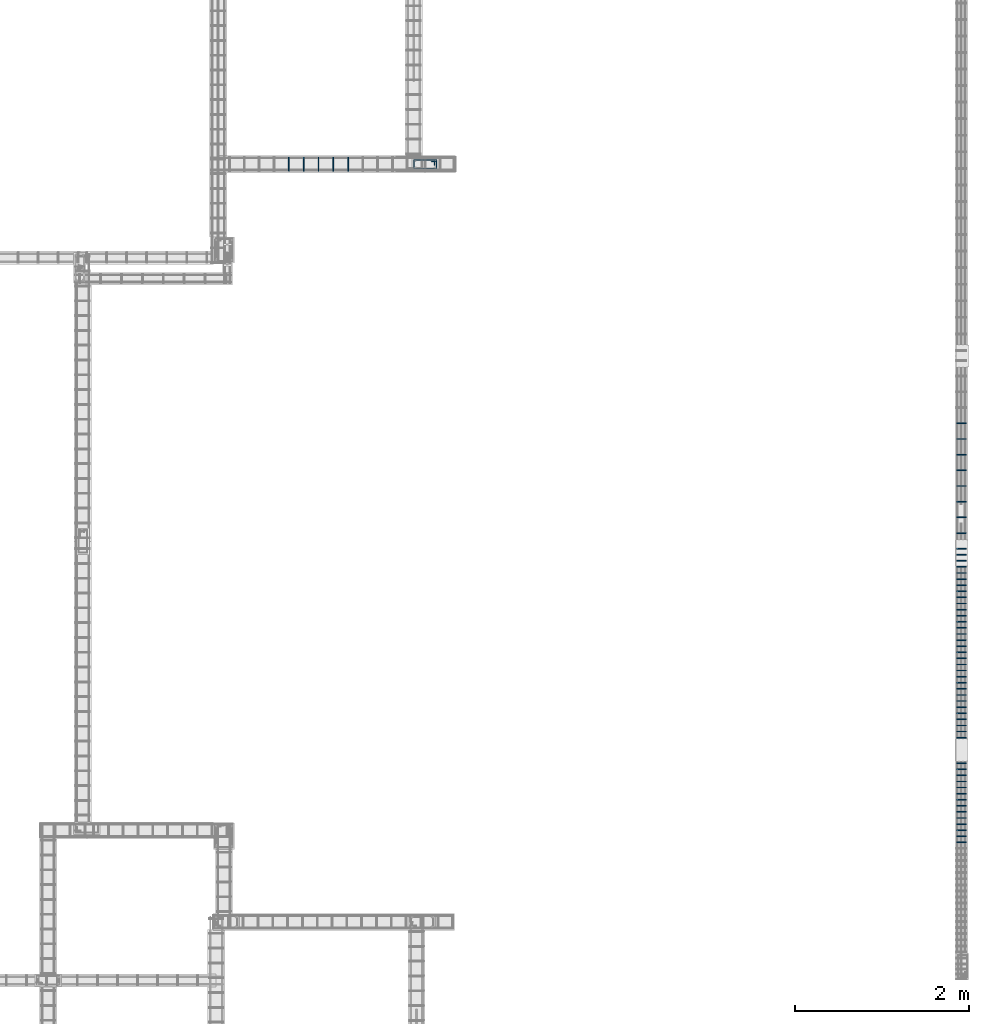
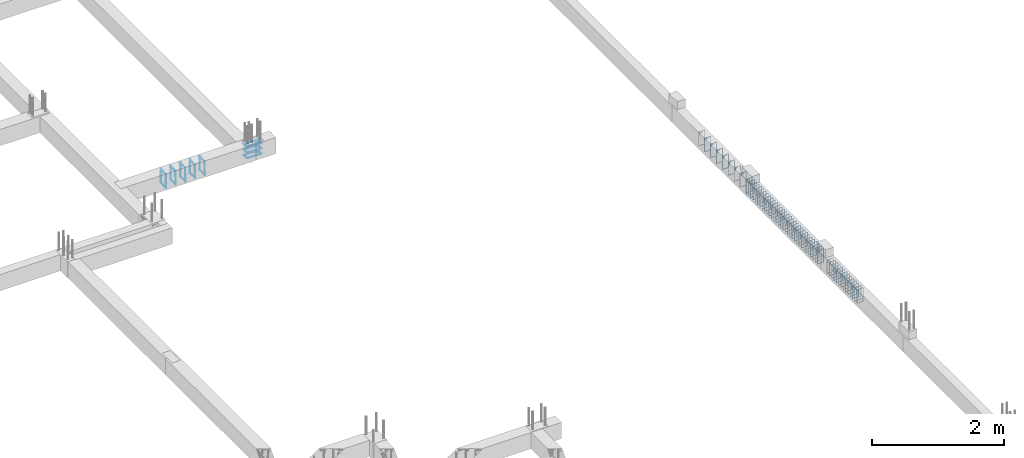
# One storey, part 104 of 150: 62 reinforcing bars.
"""IFC4 building model written with IfcOpenShell, lengths in centimetres."""

from ifc_helpers import new_model, entity, si_unit, derived_unit, frame, origin_with_axes, place, context, project, spatial, source, transform, mapped, element, save


model = new_model("IFC4")

# Units and contexts
model_context = context("Model", 3, precision=1e-05, world=origin_with_axes(), identifier="Body")
ifc_project = project(units=[si_unit("LENGTHUNIT", "METRE", prefix="CENTI"), si_unit("VOLUMEUNIT", "CUBIC_METRE"), si_unit("AREAUNIT", "SQUARE_METRE"), si_unit("POWERUNIT", "WATT"), si_unit("LUMINOUSFLUXUNIT", "LUMEN"), si_unit("ELECTRICCURRENTUNIT", "AMPERE"), si_unit("PRESSUREUNIT", "PASCAL", prefix="KILO"), si_unit("MASSUNIT", "GRAM", prefix="KILO"), si_unit("PLANEANGLEUNIT", "RADIAN"), derived_unit("VOLUMETRICFLOWRATEUNIT", [(si_unit("LENGTHUNIT", "METRE"), 3), (si_unit("TIMEUNIT", "SECOND"), -1)])], contexts=[model_context])

# Site, building, storey
site_placement = place(None, frame((-4000.0, 0.0, 0.0), z_axis=(0.0, 0.0, 1.0), x_axis=(1.0, 0.0, 0.0)))
site = spatial("IfcSite", under=ifc_project, at=site_placement, Name="PADRÃO")
building_placement = place(site_placement, frame((0.0, 0.0, -14.0)))
building = spatial("IfcBuilding", under=site, at=building_placement, Name="CRECHE PRÉ-ESCOLA TIPO 2")
placement = place(building_placement, origin_with_axes())
storey_placement = place(placement, frame((0.0, 0.0, 30.0), z_axis=(0.0, 0.0, 1.0), x_axis=(1.0, 0.0, 0.0)))
storey = spatial("IfcBuildingStorey", under=building, at=storey_placement, Name="VIGA BALDRAME", CompositionType="ELEMENT", Elevation=16.0)

# Reinforcing bars
shared_shape_1 = source(origin_with_axes(), model_context, "Body", "AdvancedSweptSolid", [
    entity("IfcSweptDiskSolid", entity("IfcCompositeCurve", [entity("IfcCompositeCurveSegment", "CONTINUOUS", True, entity("IfcPolyline", [entity("IfcCartesianPoint", [4.25, 21.75, 0.0]), entity("IfcCartesianPoint", [4.25, 27.75, 0.0])])), entity("IfcCompositeCurveSegment", "CONTINUOUS", True, entity("IfcPolyline", [entity("IfcCartesianPoint", [4.25, 27.75, 0.0]), entity("IfcCartesianPoint", [2.25, 27.75, 0.0])])), entity("IfcCompositeCurveSegment", "CONTINUOUS", True, entity("IfcPolyline", [entity("IfcCartesianPoint", [2.25, 27.75, 0.0]), entity("IfcCartesianPoint", [2.25, 2.25, 0.0])])), entity("IfcCompositeCurveSegment", "CONTINUOUS", True, entity("IfcPolyline", [entity("IfcCartesianPoint", [2.25, 2.25, 0.0]), entity("IfcCartesianPoint", [11.75, 2.25, 0.0])])), entity("IfcCompositeCurveSegment", "CONTINUOUS", True, entity("IfcPolyline", [entity("IfcCartesianPoint", [11.75, 2.25, 0.0]), entity("IfcCartesianPoint", [11.75, 27.75, -0.5])])), entity("IfcCompositeCurveSegment", "CONTINUOUS", True, entity("IfcPolyline", [entity("IfcCartesianPoint", [11.75, 27.75, -0.5]), entity("IfcCartesianPoint", [2.25, 27.75, -0.5])])), entity("IfcCompositeCurveSegment", "CONTINUOUS", True, entity("IfcPolyline", [entity("IfcCartesianPoint", [2.25, 27.75, -0.5]), entity("IfcCartesianPoint", [2.25, 25.75, -0.5])])), entity("IfcCompositeCurveSegment", "CONTINUOUS", True, entity("IfcPolyline", [entity("IfcCartesianPoint", [2.25, 25.75, -0.5]), entity("IfcCartesianPoint", [8.25, 25.75, -0.5])]))], False), 0.25),
])
for number, where, z_axis, x_axis, name in (
    (1, (3361.0, 2692.02, -25.0), (0.0, 0.0, 1.0), (0.0, -1.0, 0.0), "P69 - Estribo"),
    (2, (3361.0, 2692.02, -15.0), (0.0, 0.0, 1.0), (0.0, -1.0, 0.0), "P69 - Estribo"),
    (3, (3361.0, 2692.02, -5.0), (0.0, 0.0, 1.0), (0.0, -1.0, 0.0), "P69 - Estribo"),
):
    element("IfcReinforcingBar", number, at=place(storey_placement, frame(where, z_axis=z_axis, x_axis=x_axis)), inside=storey, Name=name, BarLength=0.0, CrossSectionArea=1.9634954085e-05, NominalDiameter=0.5, PredefinedType="MAIN", context=model_context, shape_type="MappedRepresentation", body=[
        mapped(shared_shape_1, transform((0.0, 0.0, 0.0), scale=1.0)),
    ])
shared_shape_2 = source(origin_with_axes(), model_context, "Body", "AdvancedSweptSolid", [
    entity("IfcSweptDiskSolid", entity("IfcCompositeCurve", [entity("IfcCompositeCurveSegment", "CONTINUOUS", True, entity("IfcPolyline", [entity("IfcCartesianPoint", [2.0, -6.0, 0.0]), entity("IfcCartesianPoint", [2.0, 0.0, 0.0])])), entity("IfcCompositeCurveSegment", "CONTINUOUS", True, entity("IfcPolyline", [entity("IfcCartesianPoint", [2.0, 0.0, 0.0]), entity("IfcCartesianPoint", [0.0, 0.0, 0.0])])), entity("IfcCompositeCurveSegment", "CONTINUOUS", True, entity("IfcPolyline", [entity("IfcCartesianPoint", [0.0, 0.0, 0.0]), entity("IfcCartesianPoint", [0.0, -25.5, 0.0])])), entity("IfcCompositeCurveSegment", "CONTINUOUS", True, entity("IfcPolyline", [entity("IfcCartesianPoint", [0.0, -25.5, 0.0]), entity("IfcCartesianPoint", [15.5, -25.5, 0.0])])), entity("IfcCompositeCurveSegment", "CONTINUOUS", True, entity("IfcPolyline", [entity("IfcCartesianPoint", [15.5, -25.5, 0.0]), entity("IfcCartesianPoint", [15.5, 0.0, 0.5])])), entity("IfcCompositeCurveSegment", "CONTINUOUS", True, entity("IfcPolyline", [entity("IfcCartesianPoint", [15.5, 0.0, 0.5]), entity("IfcCartesianPoint", [0.0, 0.0, 0.5])])), entity("IfcCompositeCurveSegment", "CONTINUOUS", True, entity("IfcPolyline", [entity("IfcCartesianPoint", [0.0, 0.0, 0.5]), entity("IfcCartesianPoint", [0.0, -2.0, 0.5])])), entity("IfcCompositeCurveSegment", "CONTINUOUS", True, entity("IfcPolyline", [entity("IfcCartesianPoint", [0.0, -2.0, 0.5]), entity("IfcCartesianPoint", [6.0, -2.0, 0.5])]))], False), 0.25),
])
for number, where, z_axis, x_axis, name in (
    (4, (3253.75, 2692.77, -2.25), (-1.0, 0.0, 0.0), (0.0, -1.0, 0.0), "V118 - Estribo"),
    (5, (3219.75, 2692.77, -2.25), (-1.0, 0.0, 0.0), (0.0, -1.0, 0.0), "V118 - Estribo"),
    (6, (3236.75, 2692.77, -2.25), (-1.0, 0.0, 0.0), (0.0, -1.0, 0.0), "V118 - Estribo"),
    (7, (3270.75, 2692.77, -2.25), (-1.0, 0.0, 0.0), (0.0, -1.0, 0.0), "V118 - Estribo"),
    (8, (3287.75, 2692.77, -2.25), (-1.0, 0.0, 0.0), (0.0, -1.0, 0.0), "V118 - Estribo"),
):
    element("IfcReinforcingBar", number, at=place(storey_placement, frame(where, z_axis=z_axis, x_axis=x_axis)), inside=storey, Name=name, BarLength=0.0, CrossSectionArea=1.9634954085e-05, NominalDiameter=0.5, PredefinedType="MAIN", context=model_context, shape_type="MappedRepresentation", body=[
        mapped(shared_shape_2, transform((0.0, 0.0, 0.0), scale=1.0)),
    ])
shared_shape_3 = source(origin_with_axes(), model_context, "Body", "AdvancedSweptSolid", [
    entity("IfcSweptDiskSolid", entity("IfcCompositeCurve", [entity("IfcCompositeCurveSegment", "CONTINUOUS", True, entity("IfcPolyline", [entity("IfcCartesianPoint", [2.0, -6.0, 0.0]), entity("IfcCartesianPoint", [2.0, 0.0, 0.0])])), entity("IfcCompositeCurveSegment", "CONTINUOUS", True, entity("IfcPolyline", [entity("IfcCartesianPoint", [2.0, 0.0, 0.0]), entity("IfcCartesianPoint", [0.0, 0.0, 0.0])])), entity("IfcCompositeCurveSegment", "CONTINUOUS", True, entity("IfcPolyline", [entity("IfcCartesianPoint", [0.0, 0.0, 0.0]), entity("IfcCartesianPoint", [0.0, -25.5, 0.0])])), entity("IfcCompositeCurveSegment", "CONTINUOUS", True, entity("IfcPolyline", [entity("IfcCartesianPoint", [0.0, -25.5, 0.0]), entity("IfcCartesianPoint", [10.5, -25.5, 0.0])])), entity("IfcCompositeCurveSegment", "CONTINUOUS", True, entity("IfcPolyline", [entity("IfcCartesianPoint", [10.5, -25.5, 0.0]), entity("IfcCartesianPoint", [10.5, 0.0, 0.5])])), entity("IfcCompositeCurveSegment", "CONTINUOUS", True, entity("IfcPolyline", [entity("IfcCartesianPoint", [10.5, 0.0, 0.5]), entity("IfcCartesianPoint", [0.0, 0.0, 0.5])])), entity("IfcCompositeCurveSegment", "CONTINUOUS", True, entity("IfcPolyline", [entity("IfcCartesianPoint", [0.0, 0.0, 0.5]), entity("IfcCartesianPoint", [0.0, -2.0, 0.5])])), entity("IfcCompositeCurveSegment", "CONTINUOUS", True, entity("IfcPolyline", [entity("IfcCartesianPoint", [0.0, -2.0, 0.5]), entity("IfcCartesianPoint", [6.0, -2.0, 0.5])]))], False), 0.25),
])
for number, where, z_axis, x_axis, name in (
    (9, (3986.25, 1997.61, -17.25), (0.0, -1.0, 0.0), (1.0, 0.0, 0.0), "V230 - Estribo"),
    (10, (3986.25, 1990.61, -17.25), (0.0, -1.0, 0.0), (1.0, 0.0, 0.0), "V230 - Estribo"),
    (11, (3986.25, 1983.61, -17.25), (0.0, -1.0, 0.0), (1.0, 0.0, 0.0), "V230 - Estribo"),
    (12, (3986.25, 1976.61, -17.25), (0.0, -1.0, 0.0), (1.0, 0.0, 0.0), "V230 - Estribo"),
    (13, (3986.25, 1969.61, -17.25), (0.0, -1.0, 0.0), (1.0, 0.0, 0.0), "V230 - Estribo"),
    (14, (3986.25, 1962.61, -17.25), (0.0, -1.0, 0.0), (1.0, 0.0, 0.0), "V230 - Estribo"),
    (15, (3986.25, 1955.61, -17.25), (0.0, -1.0, 0.0), (1.0, 0.0, 0.0), "V230 - Estribo"),
    (16, (3986.25, 1948.61, -17.25), (0.0, -1.0, 0.0), (1.0, 0.0, 0.0), "V230 - Estribo"),
    (17, (3986.25, 1941.61, -17.25), (0.0, -1.0, 0.0), (1.0, 0.0, 0.0), "V230 - Estribo"),
    (18, (3986.25, 1934.61, -17.25), (0.0, -1.0, 0.0), (1.0, 0.0, 0.0), "V230 - Estribo"),
    (19, (3986.25, 1927.61, -17.25), (0.0, -1.0, 0.0), (1.0, 0.0, 0.0), "V230 - Estribo"),
    (20, (3986.25, 1920.61, -17.25), (0.0, -1.0, 0.0), (1.0, 0.0, 0.0), "V230 - Estribo"),
    (21, (3986.25, 1913.61, -17.25), (0.0, -1.0, 0.0), (1.0, 0.0, 0.0), "V230 - Estribo"),
    (22, (3986.25, 1906.61, -17.25), (0.0, -1.0, 0.0), (1.0, 0.0, 0.0), "V230 - Estribo"),
):
    element("IfcReinforcingBar", number, at=place(storey_placement, frame(where, z_axis=z_axis, x_axis=x_axis)), inside=storey, Name=name, BarLength=0.0, CrossSectionArea=1.9634954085e-05, NominalDiameter=0.5, PredefinedType="MAIN", context=model_context, shape_type="MappedRepresentation", body=[
        mapped(shared_shape_3, transform((0.0, 0.0, 0.0), scale=1.0)),
    ])
shared_shape_4 = source(origin_with_axes(), model_context, "Body", "AdvancedSweptSolid", [
    entity("IfcSweptDiskSolid", entity("IfcCompositeCurve", [entity("IfcCompositeCurveSegment", "CONTINUOUS", True, entity("IfcPolyline", [entity("IfcCartesianPoint", [2.0, -6.0, 0.0]), entity("IfcCartesianPoint", [2.0, 0.0, 0.0])])), entity("IfcCompositeCurveSegment", "CONTINUOUS", True, entity("IfcPolyline", [entity("IfcCartesianPoint", [2.0, 0.0, 0.0]), entity("IfcCartesianPoint", [0.0, 0.0, 0.0])])), entity("IfcCompositeCurveSegment", "CONTINUOUS", True, entity("IfcPolyline", [entity("IfcCartesianPoint", [0.0, 0.0, 0.0]), entity("IfcCartesianPoint", [0.0, -25.5, 0.0])])), entity("IfcCompositeCurveSegment", "CONTINUOUS", True, entity("IfcPolyline", [entity("IfcCartesianPoint", [0.0, -25.5, 0.0]), entity("IfcCartesianPoint", [10.5, -25.5, 0.0])])), entity("IfcCompositeCurveSegment", "CONTINUOUS", True, entity("IfcPolyline", [entity("IfcCartesianPoint", [10.5, -25.5, 0.0]), entity("IfcCartesianPoint", [10.5, 0.0, 0.5])])), entity("IfcCompositeCurveSegment", "CONTINUOUS", True, entity("IfcPolyline", [entity("IfcCartesianPoint", [10.5, 0.0, 0.5]), entity("IfcCartesianPoint", [0.0, 0.0, 0.5])])), entity("IfcCompositeCurveSegment", "CONTINUOUS", True, entity("IfcPolyline", [entity("IfcCartesianPoint", [0.0, 0.0, 0.5]), entity("IfcCartesianPoint", [0.0, -2.0, 0.5])])), entity("IfcCompositeCurveSegment", "CONTINUOUS", True, entity("IfcPolyline", [entity("IfcCartesianPoint", [0.0, -2.0, 0.5]), entity("IfcCartesianPoint", [6.0, -2.0, 0.5])]))], False), 0.25),
])
for number, where, z_axis, x_axis, name in (
    (23, (3986.25, 2236.9, -17.25), (0.0, -1.0, 0.0), (1.0, 0.0, 0.0), "V230 - Estribo"),
    (24, (3986.25, 2229.9, -17.25), (0.0, -1.0, 0.0), (1.0, 0.0, 0.0), "V230 - Estribo"),
    (25, (3986.25, 2222.9, -17.25), (0.0, -1.0, 0.0), (1.0, 0.0, 0.0), "V230 - Estribo"),
    (26, (3986.25, 2215.9, -17.25), (0.0, -1.0, 0.0), (1.0, 0.0, 0.0), "V230 - Estribo"),
    (27, (3986.25, 2208.9, -17.25), (0.0, -1.0, 0.0), (1.0, 0.0, 0.0), "V230 - Estribo"),
    (28, (3986.25, 2201.9, -17.25), (0.0, -1.0, 0.0), (1.0, 0.0, 0.0), "V230 - Estribo"),
    (29, (3986.25, 2194.9, -17.25), (0.0, -1.0, 0.0), (1.0, 0.0, 0.0), "V230 - Estribo"),
    (30, (3986.25, 2187.9, -17.25), (0.0, -1.0, 0.0), (1.0, 0.0, 0.0), "V230 - Estribo"),
    (31, (3986.25, 2180.9, -17.25), (0.0, -1.0, 0.0), (1.0, 0.0, 0.0), "V230 - Estribo"),
    (32, (3986.25, 2173.9, -17.25), (0.0, -1.0, 0.0), (1.0, 0.0, 0.0), "V230 - Estribo"),
    (33, (3986.25, 2166.9, -17.25), (0.0, -1.0, 0.0), (1.0, 0.0, 0.0), "V230 - Estribo"),
    (34, (3986.25, 2159.9, -17.25), (0.0, -1.0, 0.0), (1.0, 0.0, 0.0), "V230 - Estribo"),
    (35, (3986.25, 2152.9, -17.25), (0.0, -1.0, 0.0), (1.0, 0.0, 0.0), "V230 - Estribo"),
    (36, (3986.25, 2145.9, -17.25), (0.0, -1.0, 0.0), (1.0, 0.0, 0.0), "V230 - Estribo"),
    (37, (3986.25, 2138.9, -17.25), (0.0, -1.0, 0.0), (1.0, 0.0, 0.0), "V230 - Estribo"),
    (38, (3986.25, 2131.9, -17.25), (0.0, -1.0, 0.0), (1.0, 0.0, 0.0), "V230 - Estribo"),
    (39, (3986.25, 2124.9, -17.25), (0.0, -1.0, 0.0), (1.0, 0.0, 0.0), "V230 - Estribo"),
    (40, (3986.25, 2117.9, -17.25), (0.0, -1.0, 0.0), (1.0, 0.0, 0.0), "V230 - Estribo"),
    (41, (3986.25, 2110.9, -17.25), (0.0, -1.0, 0.0), (1.0, 0.0, 0.0), "V230 - Estribo"),
    (42, (3986.25, 2103.9, -17.25), (0.0, -1.0, 0.0), (1.0, 0.0, 0.0), "V230 - Estribo"),
    (43, (3986.25, 2096.9, -17.25), (0.0, -1.0, 0.0), (1.0, 0.0, 0.0), "V230 - Estribo"),
    (44, (3986.25, 2089.9, -17.25), (0.0, -1.0, 0.0), (1.0, 0.0, 0.0), "V230 - Estribo"),
    (45, (3986.25, 2082.9, -17.25), (0.0, -1.0, 0.0), (1.0, 0.0, 0.0), "V230 - Estribo"),
    (46, (3986.25, 2075.9, -17.25), (0.0, -1.0, 0.0), (1.0, 0.0, 0.0), "V230 - Estribo"),
    (47, (3986.25, 2068.9, -17.25), (0.0, -1.0, 0.0), (1.0, 0.0, 0.0), "V230 - Estribo"),
    (48, (3986.25, 2061.9, -17.25), (0.0, -1.0, 0.0), (1.0, 0.0, 0.0), "V230 - Estribo"),
    (49, (3986.25, 2054.9, -17.25), (0.0, -1.0, 0.0), (1.0, 0.0, 0.0), "V230 - Estribo"),
    (50, (3986.25, 2047.9, -17.25), (0.0, -1.0, 0.0), (1.0, 0.0, 0.0), "V230 - Estribo"),
    (51, (3986.25, 2040.9, -17.25), (0.0, -1.0, 0.0), (1.0, 0.0, 0.0), "V230 - Estribo"),
    (52, (3986.25, 2033.9, -17.25), (0.0, -1.0, 0.0), (1.0, 0.0, 0.0), "V230 - Estribo"),
    (53, (3986.25, 2026.9, -17.25), (0.0, -1.0, 0.0), (1.0, 0.0, 0.0), "V230 - Estribo"),
):
    element("IfcReinforcingBar", number, at=place(storey_placement, frame(where, z_axis=z_axis, x_axis=x_axis)), inside=storey, Name=name, BarLength=0.0, CrossSectionArea=1.9634954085e-05, NominalDiameter=0.5, PredefinedType="MAIN", context=model_context, shape_type="MappedRepresentation", body=[
        mapped(shared_shape_4, transform((0.0, 0.0, 0.0), scale=1.0)),
    ])
shared_shape_5 = source(origin_with_axes(), model_context, "Body", "AdvancedSweptSolid", [
    entity("IfcSweptDiskSolid", entity("IfcCompositeCurve", [entity("IfcCompositeCurveSegment", "CONTINUOUS", True, entity("IfcPolyline", [entity("IfcCartesianPoint", [2.0, -6.0, 0.0]), entity("IfcCartesianPoint", [2.0, 0.0, 0.0])])), entity("IfcCompositeCurveSegment", "CONTINUOUS", True, entity("IfcPolyline", [entity("IfcCartesianPoint", [2.0, 0.0, 0.0]), entity("IfcCartesianPoint", [0.0, 0.0, 0.0])])), entity("IfcCompositeCurveSegment", "CONTINUOUS", True, entity("IfcPolyline", [entity("IfcCartesianPoint", [0.0, 0.0, 0.0]), entity("IfcCartesianPoint", [0.0, -25.5, 0.0])])), entity("IfcCompositeCurveSegment", "CONTINUOUS", True, entity("IfcPolyline", [entity("IfcCartesianPoint", [0.0, -25.5, 0.0]), entity("IfcCartesianPoint", [10.5, -25.5, 0.0])])), entity("IfcCompositeCurveSegment", "CONTINUOUS", True, entity("IfcPolyline", [entity("IfcCartesianPoint", [10.5, -25.5, 0.0]), entity("IfcCartesianPoint", [10.5, 0.0, 0.5])])), entity("IfcCompositeCurveSegment", "CONTINUOUS", True, entity("IfcPolyline", [entity("IfcCartesianPoint", [10.5, 0.0, 0.5]), entity("IfcCartesianPoint", [0.0, 0.0, 0.5])])), entity("IfcCompositeCurveSegment", "CONTINUOUS", True, entity("IfcPolyline", [entity("IfcCartesianPoint", [0.0, 0.0, 0.5]), entity("IfcCartesianPoint", [0.0, -2.0, 0.5])])), entity("IfcCompositeCurveSegment", "CONTINUOUS", True, entity("IfcPolyline", [entity("IfcCartesianPoint", [0.0, -2.0, 0.5]), entity("IfcCartesianPoint", [6.0, -2.0, 0.5])]))], False), 0.25),
])
for number, where, z_axis, x_axis, name in (
    (54, (3986.25, 2387.73, -17.25), (0.0, -1.0, 0.0), (1.0, 0.0, 0.0), "V230 - Estribo"),
    (55, (3986.25, 2369.73, -17.25), (0.0, -1.0, 0.0), (1.0, 0.0, 0.0), "V230 - Estribo"),
    (56, (3986.25, 2351.73, -17.25), (0.0, -1.0, 0.0), (1.0, 0.0, 0.0), "V230 - Estribo"),
    (57, (3986.25, 2333.73, -17.25), (0.0, -1.0, 0.0), (1.0, 0.0, 0.0), "V230 - Estribo"),
    (58, (3986.25, 2315.73, -17.25), (0.0, -1.0, 0.0), (1.0, 0.0, 0.0), "V230 - Estribo"),
    (59, (3986.25, 2297.73, -17.25), (0.0, -1.0, 0.0), (1.0, 0.0, 0.0), "V230 - Estribo"),
    (60, (3986.25, 2279.73, -17.25), (0.0, -1.0, 0.0), (1.0, 0.0, 0.0), "V230 - Estribo"),
    (61, (3986.25, 2261.73, -17.25), (0.0, -1.0, 0.0), (1.0, 0.0, 0.0), "V230 - Estribo"),
    (62, (3986.25, 2243.73, -17.25), (0.0, -1.0, 0.0), (1.0, 0.0, 0.0), "V230 - Estribo"),
):
    element("IfcReinforcingBar", number, at=place(storey_placement, frame(where, z_axis=z_axis, x_axis=x_axis)), inside=storey, Name=name, BarLength=0.0, CrossSectionArea=1.9634954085e-05, NominalDiameter=0.5, PredefinedType="MAIN", context=model_context, shape_type="MappedRepresentation", body=[
        mapped(shared_shape_5, transform((0.0, 0.0, 0.0), scale=1.0)),
    ])

save(model, "model.ifc")
